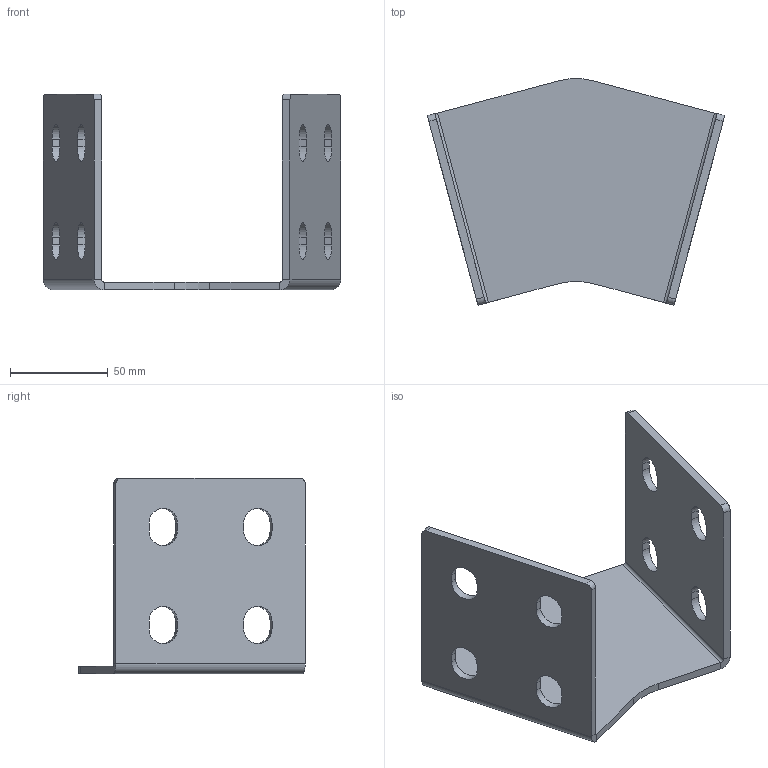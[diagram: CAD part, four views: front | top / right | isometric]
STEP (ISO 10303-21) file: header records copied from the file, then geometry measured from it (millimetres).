
FILE_DESCRIPTION (( 'STEP AP214' ), '1' );
FILE_NAME ('10010030.STEP', '2018-03-02T06:17:29', ( '' ), ( '' ), 'SwSTEP 2.0', 'SolidWorks 2014', '' );
FILE_SCHEMA (( 'AUTOMOTIVE_DESIGN' ));
Length unit declared in the file: millimetre
Products named in the file (2): 10010030
Bounding box: 151.76 x 115.56 x 100 mm (x, y, z)
Volume: 120121.5 mm3; surface area: 65155.2 mm2
Topology: 1 solids, 1 shells, 62 faces, 164 edges, 104 vertices
Faces by surface type: plane 36, cylinder 26
Entity records: 1993 total; most frequent: DIRECTION 344, CARTESIAN_POINT 332, ORIENTED_EDGE 328, EDGE_CURVE 164, AXIS2_PLACEMENT_3D 116, LINE 112, VECTOR 112, VERTEX_POINT 104
